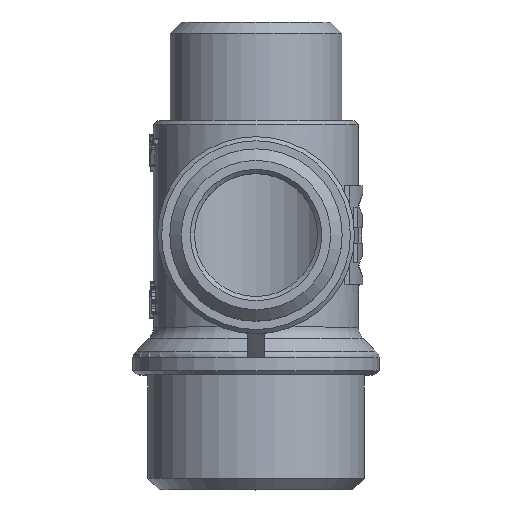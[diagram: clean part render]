
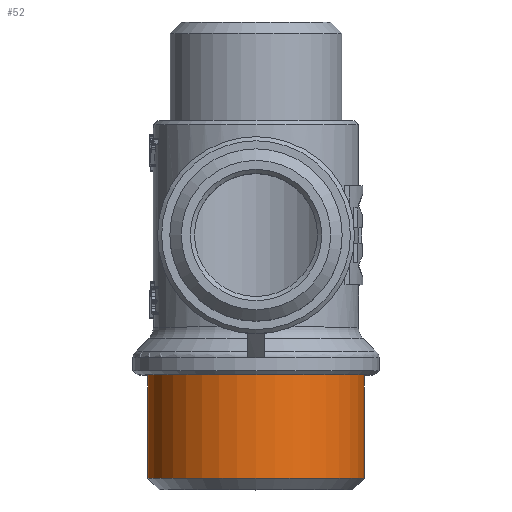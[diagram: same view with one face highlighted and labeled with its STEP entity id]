
A CAD part, top view. The second image highlights one B-rep face of the part: STEP entity #52.
In plain terms, the highlighted cylindrical face has radius 13.2 mm (diameter 26.4 mm), a full revolution.
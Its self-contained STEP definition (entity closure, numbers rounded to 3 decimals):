
#52=ADVANCED_FACE('',(#454,#456),#458,.T.);
#454=FACE_OUTER_BOUND('',#455,.T.);
#455=EDGE_LOOP('',(#2656));
#456=FACE_OUTER_BOUND('',#457,.T.);
#457=EDGE_LOOP('',(#2657));
#458=CYLINDRICAL_SURFACE('',#459,13.2);
#459=AXIS2_PLACEMENT_3D('',#460,#461,#462);
#460=CARTESIAN_POINT('',(0.,-17.,0.));
#461=DIRECTION('',(0.,-1.,0.));
#462=DIRECTION('',(1.,0.,0.));
#2656=ORIENTED_EDGE('',*,*,#5024,.F.);
#2657=ORIENTED_EDGE('',*,*,#5025,.F.);
#5024=EDGE_CURVE('',#5947,#5947,#5948,.F.);
#5025=EDGE_CURVE('',#5949,#5949,#5950,.T.);
#5947=VERTEX_POINT('',#7646);
#5948=CIRCLE('',#7647,13.2);
#5949=VERTEX_POINT('',#7651);
#5950=CIRCLE('',#7652,13.2);
#7646=CARTESIAN_POINT('',(13.2,-17.,0.));
#7647=AXIS2_PLACEMENT_3D('',#7648,#7649,#7650);
#7648=CARTESIAN_POINT('',(0.,-17.,0.));
#7649=DIRECTION('',(0.,-1.,0.));
#7650=DIRECTION('',(1.,0.,0.));
#7651=CARTESIAN_POINT('',(13.2,-29.6,0.));
#7652=AXIS2_PLACEMENT_3D('',#7653,#7654,#7655);
#7653=CARTESIAN_POINT('',(0.,-29.6,0.));
#7654=DIRECTION('',(0.,-1.,0.));
#7655=DIRECTION('',(1.,0.,0.));
